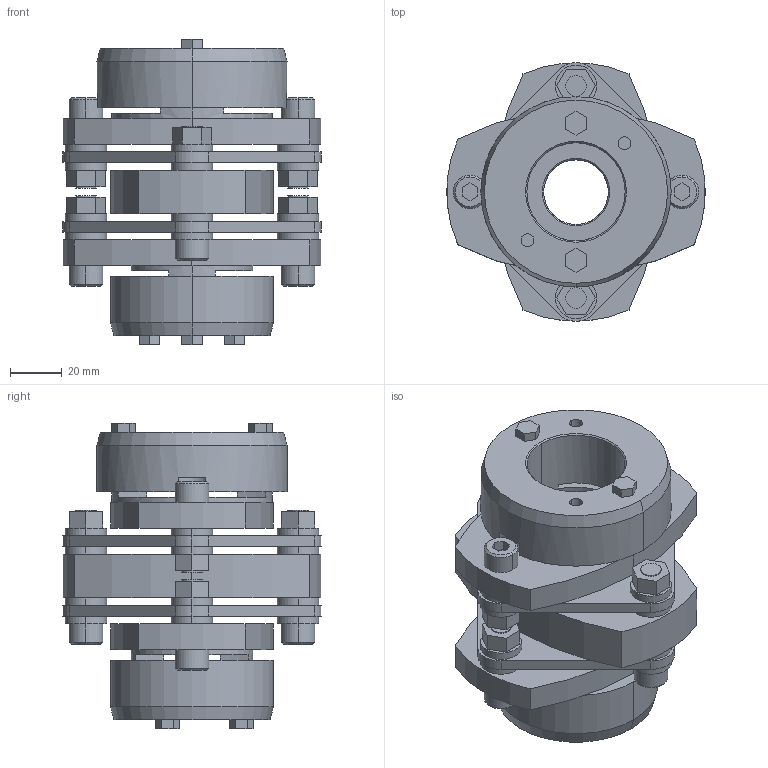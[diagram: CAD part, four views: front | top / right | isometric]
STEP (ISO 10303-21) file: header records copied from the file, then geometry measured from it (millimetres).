
FILE_DESCRIPTION((''),'2;1');
FILE_NAME('LCD-100T7-25×38.stp','2011-09-09T08:48:19',(''),(''),'AutoCAD STEP 2000i','AutoCAD 2000i',', , ');
FILE_SCHEMA(('CONFIG_CONTROL_DESIGN'));
Length unit declared in the file: millimetre
Products named in the file (10): LCD-100T7-25×38; 忣兜1; LC100T7-T038; LC100T7-T035; LC100T7-T030; LC100T7-T025-1; LC100T7-T025; LC100T7-T022-1; LC100T7-T022; LCD100-ITA
Assembly tree (9 placements, depth 2):
  LCD-100T7-25×38
    忣兜1
    LC100T7-T038
    LC100T7-T035
    LC100T7-T030
    LC100T7-T025-1
    LC100T7-T025
    LC100T7-T022-1
    LC100T7-T022
    LCD100-ITA
Bounding box: 100 x 99.93 x 118 mm (x, y, z)
Volume: 353509.9 mm3; surface area: 90642.5 mm2
Topology: 1 solids, 1 shells, 317 faces, 774 edges, 508 vertices
Faces by surface type: plane 171, cylinder 122, cone 24
Entity records: 9637 total; most frequent: DIRECTION 1716, CARTESIAN_POINT 1609, ORIENTED_EDGE 1548, EDGE_CURVE 774, AXIS2_PLACEMENT_3D 615, VERTEX_POINT 508, VECTOR 486, LINE 486
